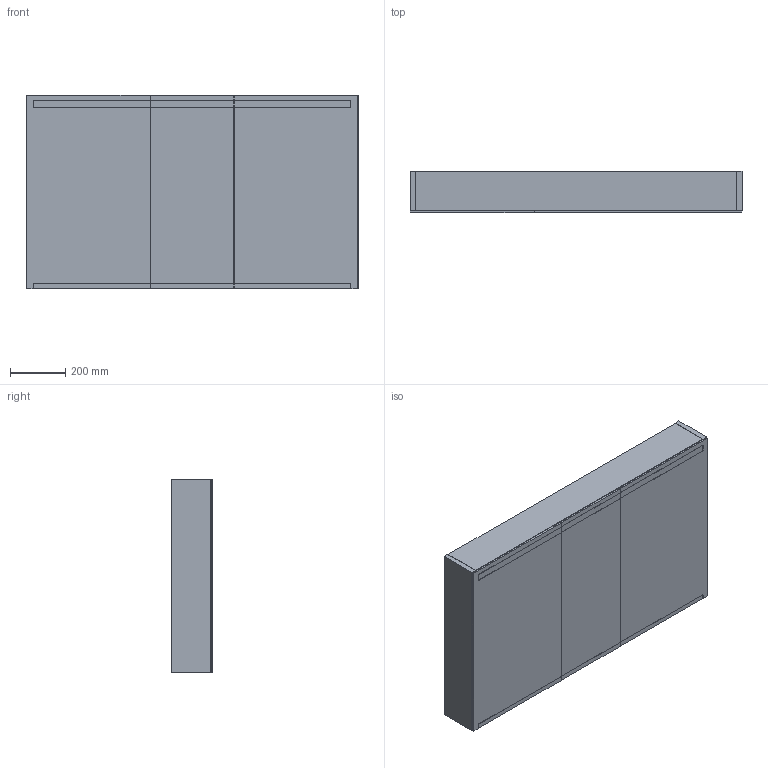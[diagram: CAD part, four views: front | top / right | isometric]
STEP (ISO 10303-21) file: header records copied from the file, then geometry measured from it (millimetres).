
FILE_DESCRIPTION(/* description */ (''),/* implementation_level */ '2;1');
FILE_NAME(/* name */ 'C:\Planerdaten\Export PLA\500.207.00.1\stp\500207.stp',/* time_stamp */ '2020-01-13T15:44:56+01:00',/* author */ ('JANAN'),/* organization */ (''),/* preprocessor_version */ 'ST-DEVELOPER v16.13',/* originating_system */ 'Autodesk Inventor 2018',/* authorisation */ '');
FILE_SCHEMA (('AUTOMOTIVE_DESIGN { 1 0 10303 214 3 1 1 }'));
Length unit declared in the file: millimetre
Products named in the file (1): SpglSchrk Ge+Opt B120 m/Bel 3-Tü
Bounding box: 1200 x 150 x 700 mm (x, y, z)
Volume: 23791081.4 mm3; surface area: 5374873.5 mm2
Topology: 4 solids, 6 shells, 112 faces, 296 edges, 196 vertices
Faces by surface type: plane 106, cylinder 6
Entity records: 3574 total; most frequent: CARTESIAN_POINT 605, ORIENTED_EDGE 592, DIRECTION 534, EDGE_CURVE 296, LINE 284, VECTOR 284, VERTEX_POINT 196, AXIS2_PLACEMENT_3D 125
